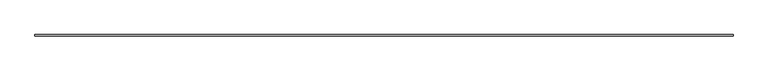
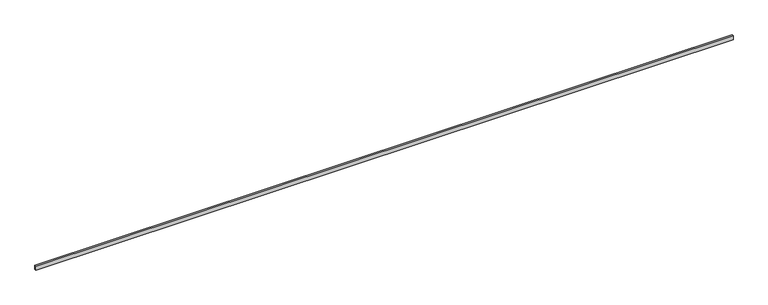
"""IFC4 building model written with IfcOpenShell, lengths in millimetres: proxy geometry, Modelos genéricos 22 : Modelos genéricos 22."""

from ifc_helpers import new_model, si_unit, frame, origin, place, context, project, spatial, polyline, outline, extrude, source, transform, mapped, element, save


def generic_models_5a4ce64b(model_context):
    return source(origin(), model_context, "Body", "SweptSolid", [
        extrude(outline(polyline([(-13461.5527533, 1918.6238165), (-13461.5527533, 1978.6238165), (13767.1855645, 1978.6238165), (13767.1855645, 1918.6238165), (-13461.5527533, 1918.6238165)])), frame((0.0, 0.0, 4220.0), z_axis=(0.0, 0.0, 1.0), x_axis=(1.0, 0.0, 0.0)), (0.0, 0.0, 1.0), 160.0),
    ])


if __name__ == "__main__":
    model = new_model("IFC4")
    model_context = context("Model", 3, world=origin())
    ifc_project = project(units=[si_unit("LENGTHUNIT", "METRE", prefix="MILLI")], contexts=[model_context])
    site = spatial("IfcSite", under=ifc_project)
    building = spatial("IfcBuilding", under=site)
    placement = place(None, origin())
    generic_models_shape = generic_models_5a4ce64b(model_context)
    element("IfcBuildingElementProxy", 1, Name="Modelos genéricos 22 : Modelos genéricos 22", ObjectType="Modelos genéricos 22 : Modelos genéricos 22", at=placement, inside=building, context=model_context, shape_type="MappedRepresentation", body=[
        mapped(generic_models_shape, transform((0.0, 0.0, 0.0), x_axis=(1.0, 0.0, 0.0), y_axis=(0.0, 1.0, 0.0), z_axis=(0.0, 0.0, 1.0))),
    ])
    save(model, "model.ifc")
